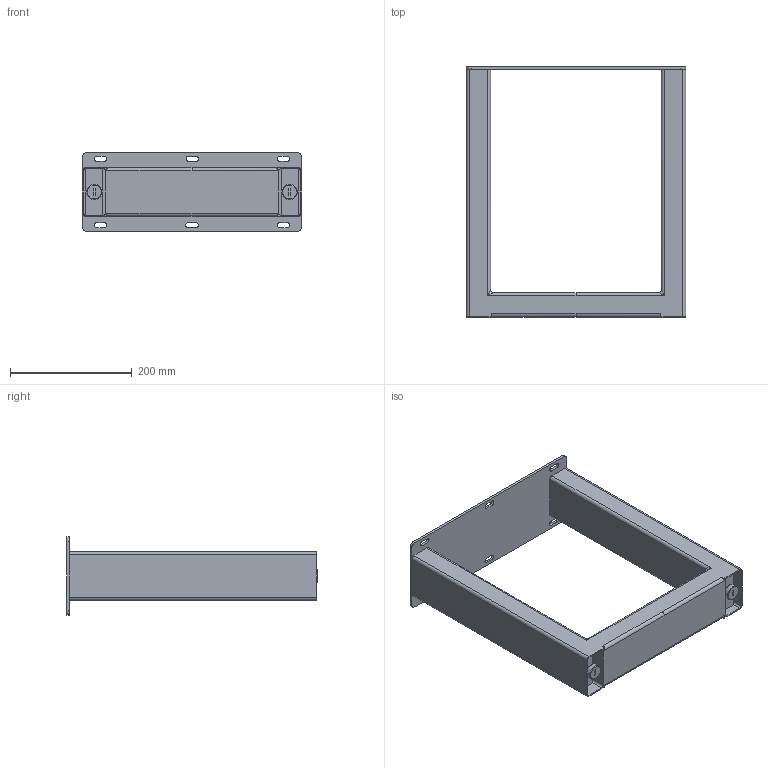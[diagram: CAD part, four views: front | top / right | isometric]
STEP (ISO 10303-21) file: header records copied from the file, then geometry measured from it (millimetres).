
FILE_DESCRIPTION(/* description */ (''),/* implementation_level */ '2;1');
FILE_NAME(/* name */ 'Bankgestell U v3.step',/* time_stamp */ '2024-05-08T16:08:36+02:00',/* author */ (''),/* organization */ (''),/* preprocessor_version */ 'ST-DEVELOPER v20',/* originating_system */ 'Autodesk Translation Framework v12.20.1.177',/* authorisation */ '');
FILE_SCHEMA (('AUTOMOTIVE_DESIGN { 1 0 10303 214 3 1 1 }'));
Length unit declared in the file: millimetre
Products named in the file (5): Bankgestell U; Komponente1; Komponente2; Komponente3; Komponente4
Assembly tree (4 placements, depth 2):
  Bankgestell U
    Komponente1
    Komponente2
    Komponente3
    Komponente4
Bounding box: 360 x 410.04 x 129 mm (x, y, z)
Volume: 749694.5 mm3; surface area: 602277.9 mm2
Topology: 6 solids, 7 shells, 311 faces, 873 edges, 573 vertices
Faces by surface type: cylinder 216, plane 79, bspline 12, cone 4
Full cylindrical faces by diameter (mm): 5.744 x24, 6.035 x4, 6.884 x44, 7.147 x4, 24.8 x2
Entity records: 19434 total; most frequent: CARTESIAN_POINT 11822, ORIENTED_EDGE 1738, DIRECTION 1281, EDGE_CURVE 869, VERTEX_POINT 573, AXIS2_PLACEMENT_3D 436, LINE 409, VECTOR 409
